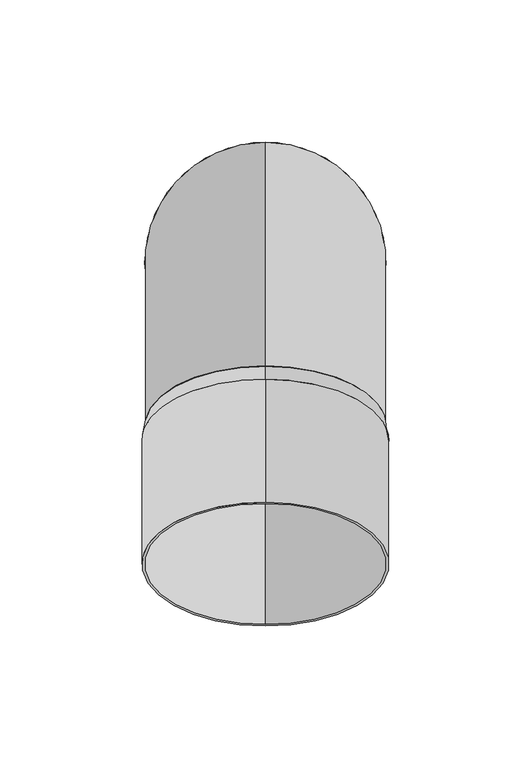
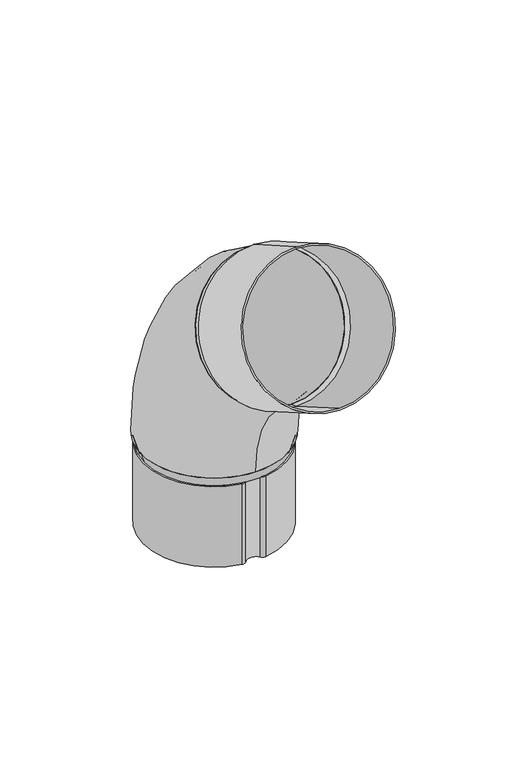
"""IFC4 building model written with IfcOpenShell, lengths in millimetres: proxy geometry, GROVIK_Downpipe_Elbow : N85_60°_Up."""

from ifc_helpers import new_model, si_unit, point, frame, frame_2d, origin, origin_with_axes, origin_2d, place, context, project, spatial, polyline, circle_curve, ellipse_curve, trimmed, segment, composite_curve, outline, extrude, source, transform, mapped, element, save
from ifc_brep_helpers import plane_surface, revolved_surface, advanced_brep


def generic_models_3aae6fd2(model_context):
    return source(origin(), model_context, "Body", "SolidModel", [
        advanced_brep(
        [(0.0, 42.5, 0.0), (0.0, -42.5, 0.0), (0.0, 41.5, 0.0), (0.0, -41.5, 0.0), (0.0, -36.25, 136.3990011), (0.0, -78.75, 62.7868418), (0.0, -36.75, 135.5329757), (0.0, -78.25, 63.6528672)],
        [
            (0, 1, circle_curve(frame((0.0, 0.0, 0.0), z_axis=(0.0, 0.0, -1.0), x_axis=(0.0, -1.0, 0.0)), 42.5)),
            (1, 0, circle_curve(frame((0.0, 0.0, 0.0), z_axis=(0.0, 0.0, -1.0), x_axis=(0.0, -1.0, 0.0)), 42.5)),
            (2, 3, circle_curve(frame((0.0, 0.0, 0.0), z_axis=(0.0, 0.0, 1.0), x_axis=(0.0, -1.0, 0.0)), 41.5)),
            (3, 2, circle_curve(frame((0.0, 0.0, 0.0), z_axis=(0.0, 0.0, 1.0), x_axis=(0.0, -1.0, 0.0)), 41.5)),
            (4, 5, circle_curve(frame((0.0, -57.5, 99.5929214), z_axis=(0.0, -0.8660254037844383, 0.5000000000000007), x_axis=(0.0, -0.5000000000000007, -0.8660254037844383)), 42.5)),
            (5, 4, circle_curve(frame((0.0, -57.5, 99.5929214), z_axis=(0.0, -0.8660254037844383, 0.5000000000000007), x_axis=(0.0, -0.5000000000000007, -0.8660254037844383)), 42.5)),
            (6, 7, circle_curve(frame((0.0, -57.5, 99.5929214), z_axis=(0.0, 0.8660254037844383, -0.5000000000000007), x_axis=(0.0, -0.5000000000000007, -0.8660254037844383)), 41.5)),
            (7, 6, circle_curve(frame((0.0, -57.5, 99.5929214), z_axis=(0.0, 0.8660254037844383, -0.5000000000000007), x_axis=(0.0, -0.5000000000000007, -0.8660254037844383)), 41.5)),
            (7, 3, circle_curve(frame((0.0, -115.0, 0.0), z_axis=(-1.0, 0.0, 0.0), x_axis=(0.0, 1.0, 0.0)), 73.5)),
            (2, 6, circle_curve(frame((0.0, -115.0, 0.0), z_axis=(1.0, 0.0, 0.0), x_axis=(0.0, 1.0, 0.0)), 156.5)),
            (5, 1, circle_curve(frame((0.0, -115.0, 0.0), z_axis=(-1.0, 0.0, 0.0), x_axis=(0.0, 1.0, 0.0)), 72.5)),
            (0, 4, circle_curve(frame((0.0, -115.0, 0.0), z_axis=(1.0, 0.0, 0.0), x_axis=(0.0, 1.0, 0.0)), 157.5)),
        ],
        [
            plane_surface(frame((0.0, 0.0, 0.0), z_axis=(0.0, 0.0, -1.0), x_axis=(1.0, 0.0, 0.0))),
            plane_surface(frame((0.0, -57.5, 99.5929214), z_axis=(0.0, -0.8660254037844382, 0.5000000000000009), x_axis=(1.0, 0.0, 0.0))),
            revolved_surface(trimmed(ellipse_curve(frame((0.0, 0.0, 0.0), z_axis=(0.0, 0.0, 1.0), x_axis=(0.0, -1.0, 0.0)), 41.5, 41.5), [point((0.0, 41.5, 0.0))], [point((0.0, -41.5, 0.0))], True, "CARTESIAN"), (0.0, -115.0, 0.0), (1.0, 0.0, 0.0)),
            revolved_surface(trimmed(ellipse_curve(frame((0.0, 0.0, 0.0), z_axis=(0.0, 0.0, 1.0), x_axis=(0.0, -1.0, 0.0)), 41.5, 41.5), [point((0.0, -41.5, 0.0))], [point((0.0, 41.5, 0.0))], True, "CARTESIAN"), (0.0, -115.0, 0.0), (1.0, 0.0, 0.0)),
            revolved_surface(trimmed(ellipse_curve(frame((0.0, 0.0, 0.0), z_axis=(0.0, 0.0, -1.0), x_axis=(0.0, -1.0, 0.0)), 42.5, 42.5), [point((0.0, 42.5, 0.0))], [point((0.0, -42.5, 0.0))], True, "CARTESIAN"), (0.0, -115.0, 0.0), (1.0, 0.0, 0.0)),
            revolved_surface(trimmed(ellipse_curve(frame((0.0, 0.0, 0.0), z_axis=(0.0, 0.0, -1.0), x_axis=(0.0, -1.0, 0.0)), 42.5, 42.5), [point((0.0, -42.5, 0.0))], [point((0.0, 42.5, 0.0))], True, "CARTESIAN"), (0.0, -115.0, 0.0), (1.0, 0.0, 0.0)),
        ],
        [
            (0, [[1, 2], [3, 4]]),
            (1, [[5, 6], [7, 8]]),
            (2, [[9, -3, 10, -8]]),
            (3, [[-10, -4, -9, -7]]),
            (4, [[11, -1, 12, -6]]),
            (5, [[-12, -2, -11, -5]]),
        ],
    ),
        extrude(outline(composite_curve([segment(trimmed(circle_curve(origin_2d(), 43.5), [point((0.0, -43.4999999))], [point((0.0, 43.5))], False, "CARTESIAN"), True, "CONTINUOUS"), segment(trimmed(circle_curve(origin_2d(), 43.5), [point((0.0, 43.5))], [point((0.0, -43.4999999))], False, "CARTESIAN"), True, "CONTINUOUS")], self_intersect=False), holes=[composite_curve([segment(trimmed(circle_curve(origin_2d(), 42.5), [point((0.0, -42.4999999))], [point((0.0, 42.5))], True, "CARTESIAN"), True, "CONTINUOUS"), segment(trimmed(circle_curve(origin_2d(), 42.5), [point((0.0, 42.5))], [point((0.0, -42.4999999))], True, "CARTESIAN"), True, "CONTINUOUS")], self_intersect=False)]), frame((0.0, -62.6961524, 102.5929214), z_axis=(0.0, -0.866025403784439, 0.49999999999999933), x_axis=(1.0, 0.0, 0.0)), (0.0, 0.0, 1.0), 50.0),
        extrude(outline(composite_curve([segment(trimmed(circle_curve(frame_2d((-6.6504209, 37.8351931)), 3.0848069), [point((-7.1689075, 40.8761148))], [point((-4.2037022, 39.7139163))], False, "CARTESIAN"), True, "CONTINUOUS"), segment(trimmed(circle_curve(frame_2d((0.0, 42.9417465)), 5.3), [point((-4.2037022, 39.7139163))], [point((4.2058428, 39.716706))], True, "CARTESIAN"), True, "CONTINUOUS"), segment(trimmed(circle_curve(frame_2d((6.6465812, 37.8451476)), 3.0757007), [point((4.2058428, 39.716706))], [point((7.2, 40.8706496))], False, "CARTESIAN"), True, "CONTINUOUS"), segment(trimmed(circle_curve(origin_2d(), 41.5), [point((7.2, 40.8706496))], [point((7.2, -40.8706496))], False, "CARTESIAN"), True, "CONTINUOUS"), segment(trimmed(circle_curve(frame_2d((6.6465812, -37.8451476)), 3.0757007), [point((7.2, -40.8706496))], [point((4.2058428, -39.716706))], False, "CARTESIAN"), True, "CONTINUOUS"), segment(trimmed(circle_curve(frame_2d((0.0, -42.9417465)), 5.3), [point((4.2058428, -39.716706))], [point((-4.2037022, -39.7139163))], True, "CARTESIAN"), True, "CONTINUOUS"), segment(trimmed(circle_curve(frame_2d((-6.6504209, -37.8351931)), 3.0848069), [point((-4.2037022, -39.7139163))], [point((-7.1689075, -40.8761148))], False, "CARTESIAN"), True, "CONTINUOUS"), segment(trimmed(circle_curve(origin_2d(), 41.5), [point((-7.1689075, -40.8761148))], [point((-7.1689075, 40.8761148))], False, "CARTESIAN"), True, "CONTINUOUS")], self_intersect=False), holes=[composite_curve([segment(trimmed(circle_curve(origin_2d(), 40.5), [point((-6.9987091, 39.8907016))], [point((-6.9987091, -39.8907016))], True, "CARTESIAN"), True, "CONTINUOUS"), segment(trimmed(circle_curve(frame_2d((-6.6504209, -37.8351931)), 2.0848069), [point((-6.9987091, -39.8907016))], [point((-4.9968535, -39.1048917))], True, "CARTESIAN"), True, "CONTINUOUS"), segment(trimmed(circle_curve(frame_2d((0.0, -42.9417465)), 6.3), [point((-4.9968535, -39.1048917))], [point((4.999398, -39.1082078))], False, "CARTESIAN"), True, "CONTINUOUS"), segment(trimmed(circle_curve(frame_2d((6.6465812, -37.8451476)), 2.0757007), [point((4.999398, -39.1082078))], [point((6.9882501, -39.8925351))], True, "CARTESIAN"), True, "CONTINUOUS"), segment(trimmed(circle_curve(origin_2d(), 40.5), [point((6.9882501, -39.8925351))], [point((7.0229886, 39.8864342))], True, "CARTESIAN"), True, "CONTINUOUS"), segment(trimmed(circle_curve(frame_2d((6.6465812, 37.8451476)), 2.0757007), [point((7.0229886, 39.8864342))], [point((4.999398, 39.1082078))], True, "CARTESIAN"), True, "CONTINUOUS"), segment(trimmed(circle_curve(frame_2d((0.0, 42.9417465)), 6.3), [point((4.999398, 39.1082078))], [point((-4.9968535, 39.1048917))], False, "CARTESIAN"), True, "CONTINUOUS"), segment(trimmed(circle_curve(frame_2d((-6.6504209, 37.8351931)), 2.0848069), [point((-4.9968535, 39.1048917))], [point((-6.9987091, 39.8907016))], True, "CARTESIAN"), True, "CONTINUOUS")], self_intersect=False)]), frame((0.0, 0.0, -56.0), z_axis=(0.0, 0.0, 1.0), x_axis=(1.0, 0.0, 0.0)), (0.0, 0.0, 1.0), 50.0),
        advanced_brep(
        [(-40.7, 0.0, -6.0), (40.7, 0.0, -6.0), (-39.7, 0.0, -6.0), (39.7, 0.0, -6.0), (-42.5, 0.0, 0.0), (42.5, 0.0, 0.0), (41.5, 0.0, 0.0), (-41.5, 0.0, 0.0)],
        [
            (0, 1, circle_curve(frame((0.0, 0.0, -6.0), z_axis=(0.0, 0.0, -1.0), x_axis=(-1.0, 0.0, 0.0)), 40.7)),
            (1, 0, circle_curve(frame((0.0, 0.0, -6.0), z_axis=(0.0, 0.0, -1.0), x_axis=(1.0, 0.0, 0.0)), 40.7)),
            (2, 3, circle_curve(frame((0.0, 0.0, -6.0), z_axis=(0.0, 0.0, 1.0), x_axis=(1.0, 0.0, 0.0)), 39.7)),
            (3, 2, circle_curve(frame((0.0, 0.0, -6.0), z_axis=(0.0, 0.0, 1.0), x_axis=(-1.0, 0.0, 0.0)), 39.7)),
            (4, 5, circle_curve(origin_with_axes(), 42.5)),
            (5, 4, circle_curve(frame((0.0, 0.0, 0.0), z_axis=(0.0, 0.0, 1.0), x_axis=(-1.0, 0.0, 0.0)), 42.5)),
            (6, 7, circle_curve(frame((0.0, 0.0, 0.0), z_axis=(0.0, 0.0, -1.0), x_axis=(1.0, 0.0, 0.0)), 41.5)),
            (7, 6, circle_curve(frame((0.0, 0.0, 0.0), z_axis=(0.0, 0.0, -1.0), x_axis=(-1.0, 0.0, 0.0)), 41.5)),
            (1, 5),
            (4, 0),
            (6, 3),
            (2, 7),
        ],
        [
            plane_surface(frame((0.0, 0.0, -6.0), z_axis=(0.0, 0.0, -1.0), x_axis=(0.0, 1.0, 0.0))),
            plane_surface(frame((0.0, 0.0, 0.0), z_axis=(0.0, 0.0, 1.0), x_axis=(0.0, 1.0, 0.0))),
            revolved_surface(polyline([(40.70000000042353, 0.0, -6.0), (42.5, 0.0, 0.0)]), (0.0, 0.0, -141.6666667), (0.0, 0.0, 1.0)),
            revolved_surface(polyline([(-40.70000000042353, 0.0, -6.0), (-42.5, 0.0, 0.0)]), (0.0, 0.0, -141.6666667), (0.0, 0.0, 1.0)),
            revolved_surface(polyline([(41.5, 0.0, 0.0), (39.699999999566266, 0.0, -6.0)]), (0.0, 0.0, -138.3333333), (0.0, 0.0, 1.0)),
        ],
        [
            (0, [[1, 2], [3, 4]]),
            (1, [[5, 6], [7, 8]]),
            (2, [[-2, 9, -5, 10]]),
            (3, [[-1, -10, -6, -9]]),
            (4, [[11, -3, 12, -7]]),
            (4, [[-11, -8, -12, -4]]),
        ],
    ),
        advanced_brep(
        [(0.0, -78.75, 62.7868418), (0.0, -36.25, 136.3990011), (0.0, -78.25, 63.6528672), (0.0, -36.75, 135.5329757), (0.0, -84.4461524, 64.9208164), (0.0, -40.9461524, 140.2650265), (0.0, -41.4461524, 139.3990011), (0.0, -83.9461524, 65.7868418)],
        [
            (0, 1, circle_curve(frame((0.0, -57.5, 99.5929214), z_axis=(0.0, 0.8660254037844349, -0.5000000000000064), x_axis=(0.0, -0.5000000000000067, -0.8660254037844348)), 42.5)),
            (1, 0, circle_curve(frame((0.0, -57.5, 99.5929214), z_axis=(0.0, 0.8660254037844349, -0.5000000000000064), x_axis=(0.0, 0.5000000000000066, 0.8660254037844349)), 42.5)),
            (2, 3, circle_curve(frame((0.0, -57.5, 99.5929214), z_axis=(0.0, -0.866025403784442, 0.4999999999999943), x_axis=(0.0, 0.49999999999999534, 0.8660254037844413)), 41.5)),
            (3, 2, circle_curve(frame((0.0, -57.5, 99.5929214), z_axis=(0.0, -0.866025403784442, 0.4999999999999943), x_axis=(0.0, -0.49999999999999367, -0.8660254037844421)), 41.5)),
            (4, 5, circle_curve(frame((0.0, -62.6961524, 102.5929214), z_axis=(0.0, -0.8660254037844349, 0.5000000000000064), x_axis=(0.0, 0.5000000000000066, 0.8660254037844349)), 43.5)),
            (5, 4, circle_curve(frame((0.0, -62.6961524, 102.5929214), z_axis=(0.0, -0.8660254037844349, 0.5000000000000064), x_axis=(0.0, -0.5000000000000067, -0.8660254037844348)), 43.5)),
            (6, 7, circle_curve(frame((0.0, -62.6961524, 102.5929214), z_axis=(0.0, 0.866025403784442, -0.4999999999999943), x_axis=(0.0, 0.49999999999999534, 0.8660254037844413)), 42.5)),
            (7, 6, circle_curve(frame((0.0, -62.6961524, 102.5929214), z_axis=(0.0, 0.866025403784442, -0.4999999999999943), x_axis=(0.0, -0.49999999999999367, -0.8660254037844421)), 42.5)),
            (1, 5),
            (4, 0),
            (6, 3),
            (2, 7),
        ],
        [
            plane_surface(frame((0.0, -57.5, 99.5929214), z_axis=(0.0, 0.8660254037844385, -0.5000000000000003), x_axis=(-1.0, 0.0, 0.0))),
            plane_surface(frame((0.0, -62.6961524, 102.5929214), z_axis=(0.0, -0.8660254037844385, 0.5000000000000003), x_axis=(-1.0, 0.0, 0.0))),
            revolved_surface(polyline([(0.0, -36.24999997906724, 136.39900109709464), (0.0, -40.9461524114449, 140.2650265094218)]), (0.0, 163.336478, -27.9070786), (0.0, -0.8660254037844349, 0.5000000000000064)),
            revolved_surface(polyline([(0.0, -78.74999996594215, 62.786841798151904), (0.0, -84.44615240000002, 64.9208164)]), (0.0, 163.336478, -27.9070786), (0.0, -0.8660254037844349, 0.5000000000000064)),
            revolved_surface(polyline([(0.0, -41.446152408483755, 139.3990011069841), (0.0, -36.74999997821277, 135.53297569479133)]), (0.0, 158.1403255, -24.9070786), (0.0, -0.866025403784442, 0.4999999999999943)),
        ],
        [
            (0, [[1, 2], [3, 4]]),
            (1, [[5, 6], [7, 8]]),
            (2, [[-2, 9, -5, 10]]),
            (3, [[-1, -10, -6, -9]]),
            (4, [[11, -3, 12, -7]]),
            (4, [[-11, -8, -12, -4]]),
        ],
    ),
    ])


if __name__ == "__main__":
    model = new_model("IFC4")
    model_context = context("Model", 3, world=origin())
    ifc_project = project(units=[si_unit("LENGTHUNIT", "METRE", prefix="MILLI")], contexts=[model_context])
    site = spatial("IfcSite", under=ifc_project)
    building = spatial("IfcBuilding", under=site)
    placement = place(None, origin())
    generic_models_shape = generic_models_3aae6fd2(model_context)
    element("IfcBuildingElementProxy", 1, Name="GROVIK_Downpipe_Elbow : N85_60°_Up", ObjectType="GROVIK_Downpipe_Elbow : N85_60°_Up", at=placement, inside=building, context=model_context, shape_type="MappedRepresentation", body=[
        mapped(generic_models_shape, transform((0.0, 0.0, 0.0), x_axis=(1.0, 0.0, 0.0), y_axis=(0.0, 1.0, 0.0), z_axis=(0.0, 0.0, 1.0))),
    ])
    save(model, "model.ifc")
